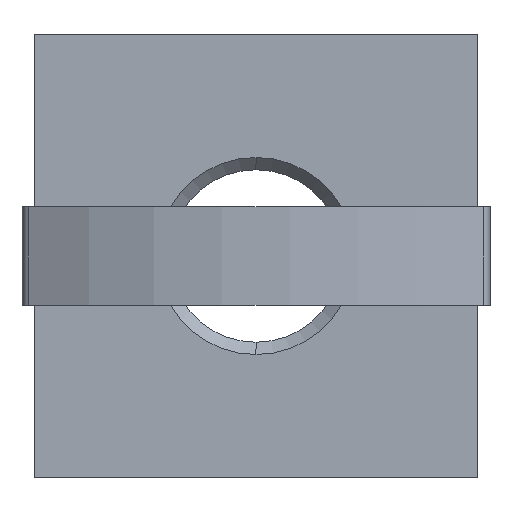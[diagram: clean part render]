
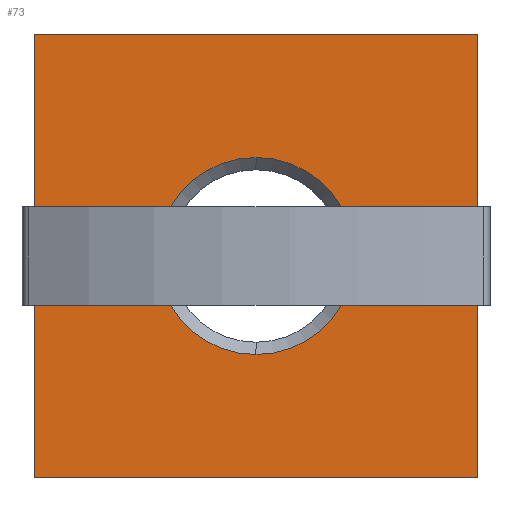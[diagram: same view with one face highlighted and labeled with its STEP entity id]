
A CAD part, front view. The second image highlights one B-rep face of the part: STEP entity #73.
In plain terms, the highlighted planar face has unit normal (0, -1, 0).
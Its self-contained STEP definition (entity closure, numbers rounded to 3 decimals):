
#23 = CARTESIAN_POINT ( 'NONE',  ( 9., -2., -9. ) ) ;
#59 = CARTESIAN_POINT ( 'NONE',  ( 0., -2., 4. ) ) ;
#72 = DIRECTION ( 'NONE',  ( -1., 0., 0. ) ) ;
#73 = ADVANCED_FACE ( 'NONE', ( #290, #919 ), #148, .F. ) ;
#84 = AXIS2_PLACEMENT_3D ( 'NONE', #287, #280, #278 ) ;
#118 = AXIS2_PLACEMENT_3D ( 'NONE', #878, #682, #857 ) ;
#121 = DIRECTION ( 'NONE',  ( 0., 0., -1. ) ) ;
#129 = CARTESIAN_POINT ( 'NONE',  ( -9., -2., -9. ) ) ;
#148 = PLANE ( 'NONE',  #118 ) ;
#173 = AXIS2_PLACEMENT_3D ( 'NONE', #920, #525, #917 ) ;
#192 = CARTESIAN_POINT ( 'NONE',  ( 9., -2., -9. ) ) ;
#194 = VECTOR ( 'NONE', #72, 1000. ) ;
#209 = DIRECTION ( 'NONE',  ( 1., 0., 0. ) ) ;
#211 = ORIENTED_EDGE ( 'NONE', *, *, #640, .T. ) ;
#224 = CIRCLE ( 'NONE', #84, 4. ) ;
#237 = CARTESIAN_POINT ( 'NONE',  ( -9., -2., 9. ) ) ;
#260 = CARTESIAN_POINT ( 'NONE',  ( -9., -2., -9. ) ) ;
#276 = DIRECTION ( 'NONE',  ( 0., 0., 1. ) ) ;
#278 = DIRECTION ( 'NONE',  ( 0., 0., 1. ) ) ;
#280 = DIRECTION ( 'NONE',  ( 0., 1., 0. ) ) ;
#287 = CARTESIAN_POINT ( 'NONE',  ( 0., -2., 0. ) ) ;
#290 = FACE_BOUND ( 'NONE', #923, .T. ) ;
#309 = VECTOR ( 'NONE', #121, 1000. ) ;
#313 = VERTEX_POINT ( 'NONE', #410 ) ;
#321 = LINE ( 'NONE', #129, #194 ) ;
#380 = EDGE_CURVE ( 'NONE', #313, #854, #224, .T. ) ;
#382 = LINE ( 'NONE', #192, #309 ) ;
#394 = LINE ( 'NONE', #260, #677 ) ;
#406 = EDGE_CURVE ( 'NONE', #760, #924, #394, .T. ) ;
#410 = CARTESIAN_POINT ( 'NONE',  ( 0., -2., -4. ) ) ;
#437 = ORIENTED_EDGE ( 'NONE', *, *, #509, .F. ) ;
#445 = ORIENTED_EDGE ( 'NONE', *, *, #406, .F. ) ;
#447 = EDGE_CURVE ( 'NONE', #924, #901, #574, .T. ) ;
#479 = CARTESIAN_POINT ( 'NONE',  ( -9., -2., -9. ) ) ;
#482 = EDGE_CURVE ( 'NONE', #901, #844, #382, .T. ) ;
#507 = VECTOR ( 'NONE', #209, 1000. ) ;
#509 = EDGE_CURVE ( 'NONE', #844, #760, #321, .T. ) ;
#525 = DIRECTION ( 'NONE',  ( 0., 1., 0. ) ) ;
#574 = LINE ( 'NONE', #237, #507 ) ;
#579 = ORIENTED_EDGE ( 'NONE', *, *, #447, .F. ) ;
#599 = ORIENTED_EDGE ( 'NONE', *, *, #482, .F. ) ;
#616 = CARTESIAN_POINT ( 'NONE',  ( 9., -2., 9. ) ) ;
#621 = ORIENTED_EDGE ( 'NONE', *, *, #380, .T. ) ;
#640 = EDGE_CURVE ( 'NONE', #854, #313, #727, .T. ) ;
#662 = CARTESIAN_POINT ( 'NONE',  ( -9., -2., 9. ) ) ;
#677 = VECTOR ( 'NONE', #276, 1000. ) ;
#682 = DIRECTION ( 'NONE',  ( 0., 1., 0. ) ) ;
#711 = EDGE_LOOP ( 'NONE', ( #445, #437, #599, #579 ) ) ;
#727 = CIRCLE ( 'NONE', #173, 4. ) ;
#760 = VERTEX_POINT ( 'NONE', #479 ) ;
#844 = VERTEX_POINT ( 'NONE', #23 ) ;
#854 = VERTEX_POINT ( 'NONE', #59 ) ;
#857 = DIRECTION ( 'NONE',  ( 0., 0., 1. ) ) ;
#878 = CARTESIAN_POINT ( 'NONE',  ( 0., -2., 0. ) ) ;
#901 = VERTEX_POINT ( 'NONE', #616 ) ;
#917 = DIRECTION ( 'NONE',  ( 0., 0., 1. ) ) ;
#919 = FACE_OUTER_BOUND ( 'NONE', #711, .T. ) ;
#920 = CARTESIAN_POINT ( 'NONE',  ( 0., -2., 0. ) ) ;
#923 = EDGE_LOOP ( 'NONE', ( #621, #211 ) ) ;
#924 = VERTEX_POINT ( 'NONE', #662 ) ;
